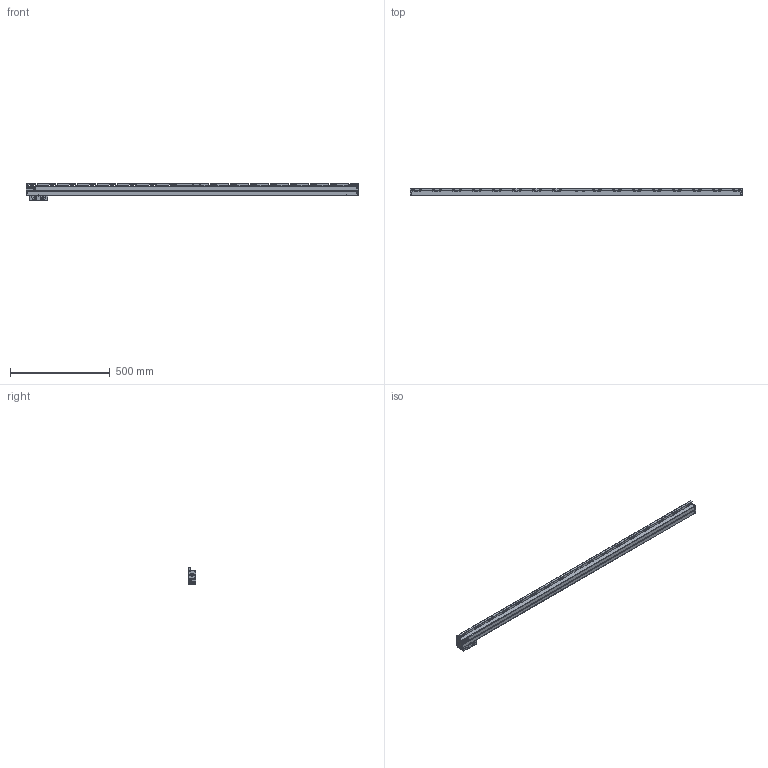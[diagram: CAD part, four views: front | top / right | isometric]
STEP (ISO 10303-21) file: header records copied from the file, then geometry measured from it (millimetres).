
FILE_DESCRIPTION(('Creo Elements/Direct Modeling STEP Export'),'2;1');
FILE_NAME('REGLA_G3-1540-T.stp','2019-06-13T17:30:04',(''),(''),'Creo Elements/Direct Modeling STEP processor for AP214 (Solid Model)','Creo Elements/Direct Modeling 19.0G 27-Nov-2017 (C) Parametric Technology GmbH','');
FILE_SCHEMA(('AUTOMOTIVE_DESIGN { 1 0 10303 214 1 1 1 1 }'));
Products named in the file (3): REGLA_G3-1540; CABEZA_ROSCADA_M6_G3; REGLA_G3-1540-T
Assembly tree (2 placements, depth 2):
  REGLA_G3-1540-T
    CABEZA_ROSCADA_M6_G3
    REGLA_G3-1540
Bounding box: 1661 x 37 x 85 mm (x, y, z)
Volume: 2718244.5 mm3; surface area: 396221.9 mm2
Topology: 2 solids, 48 shells, 2530 faces, 7205 edges, 4697 vertices
Faces by surface type: plane 1117, cylinder 1067, cone 286, torus 30, bspline 30
Entity records: 99094 total; most frequent: CARTESIAN_POINT 29348, ORIENTED_EDGE 14258, DIRECTION 12055, EDGE_CURVE 7113, VERTEX_POINT 4697, AXIS2_PLACEMENT_3D 4235, VECTOR 3585, LINE 3585
